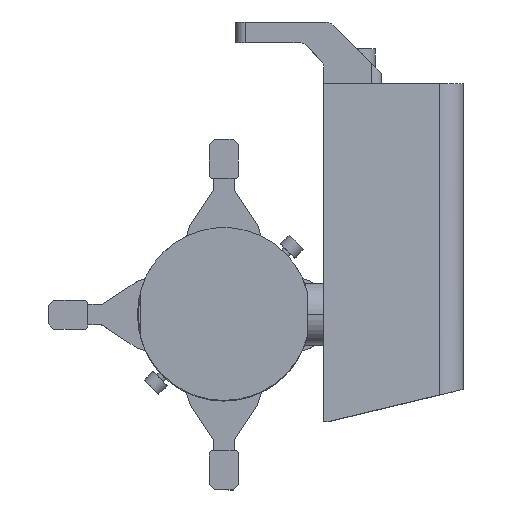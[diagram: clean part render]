
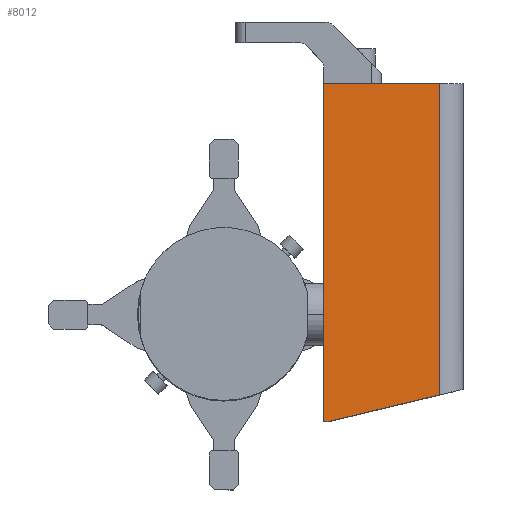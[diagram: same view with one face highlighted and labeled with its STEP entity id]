
A CAD part, top view. The second image highlights one B-rep face of the part: STEP entity #8012.
In plain terms, the highlighted planar face has unit normal (0.037, 0, 0.999).
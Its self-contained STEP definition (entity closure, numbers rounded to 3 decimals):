
#72 = CARTESIAN_POINT ( 'NONE',  ( 9.3, 112., 37.945 ) ) ;
#122 = VECTOR ( 'NONE', #8006, 1000. ) ;
#273 = ORIENTED_EDGE ( 'NONE', *, *, #3190, .F. ) ;
#546 = LINE ( 'NONE', #2147, #4829 ) ;
#746 = ORIENTED_EDGE ( 'NONE', *, *, #8245, .F. ) ;
#1152 = DIRECTION ( 'NONE',  ( -0.037, 0., -0.999 ) ) ;
#1860 = ORIENTED_EDGE ( 'NONE', *, *, #5948, .T. ) ;
#1941 = CARTESIAN_POINT ( 'NONE',  ( 9.3, -52., 37.945 ) ) ;
#1953 = CARTESIAN_POINT ( 'NONE',  ( 9.3, -101.8, 37.945 ) ) ;
#2147 = CARTESIAN_POINT ( 'NONE',  ( 9.3, 112., 37.945 ) ) ;
#2328 = VERTEX_POINT ( 'NONE', #7676 ) ;
#2598 = VECTOR ( 'NONE', #8045, 1000. ) ;
#2610 = DIRECTION ( 'NONE',  ( 0., -1., 0. ) ) ;
#3156 = VECTOR ( 'NONE', #5972, 1000. ) ;
#3190 = EDGE_CURVE ( 'NONE', #6931, #7893, #6284, .T. ) ;
#3264 = VECTOR ( 'NONE', #2610, 1000. ) ;
#3479 = CARTESIAN_POINT ( 'NONE',  ( 65.542, -101.8, 35.871 ) ) ;
#3837 = AXIS2_PLACEMENT_3D ( 'NONE', #1953, #1152, #7302 ) ;
#4207 = DIRECTION ( 'NONE',  ( -0.999, 0., 0.037 ) ) ;
#4346 = EDGE_CURVE ( 'NONE', #2328, #7067, #546, .T. ) ;
#4469 = CARTESIAN_POINT ( 'NONE',  ( 11.8, -52., 37.853 ) ) ;
#4829 = VECTOR ( 'NONE', #4207, 1000. ) ;
#5378 = CARTESIAN_POINT ( 'NONE',  ( 15.954, -51.008, 37.7 ) ) ;
#5753 = LINE ( 'NONE', #1941, #3264 ) ;
#5874 = FACE_OUTER_BOUND ( 'NONE', #5989, .T. ) ;
#5948 = EDGE_CURVE ( 'NONE', #7067, #8543, #5753, .T. ) ;
#5972 = DIRECTION ( 'NONE',  ( -0.999, 0., 0.037 ) ) ;
#5989 = EDGE_LOOP ( 'NONE', ( #273, #7135, #6707, #1860, #746 ) ) ;
#6142 = CARTESIAN_POINT ( 'NONE',  ( 65.542, -39.161, 35.871 ) ) ;
#6173 = LINE ( 'NONE', #7238, #3156 ) ;
#6284 = LINE ( 'NONE', #5378, #122 ) ;
#6521 = CARTESIAN_POINT ( 'NONE',  ( 9.3, -52., 37.945 ) ) ;
#6535 = PLANE ( 'NONE',  #3837 ) ;
#6707 = ORIENTED_EDGE ( 'NONE', *, *, #4346, .T. ) ;
#6911 = EDGE_CURVE ( 'NONE', #6931, #2328, #7925, .T. ) ;
#6931 = VERTEX_POINT ( 'NONE', #6142 ) ;
#7067 = VERTEX_POINT ( 'NONE', #72 ) ;
#7135 = ORIENTED_EDGE ( 'NONE', *, *, #6911, .T. ) ;
#7238 = CARTESIAN_POINT ( 'NONE',  ( 77.008, -52., 35.448 ) ) ;
#7302 = DIRECTION ( 'NONE',  ( -0.999, 0., 0.037 ) ) ;
#7676 = CARTESIAN_POINT ( 'NONE',  ( 65.542, 112., 35.871 ) ) ;
#7893 = VERTEX_POINT ( 'NONE', #4469 ) ;
#7925 = LINE ( 'NONE', #3479, #2598 ) ;
#8006 = DIRECTION ( 'NONE',  ( -0.972, -0.232, 0.036 ) ) ;
#8012 = ADVANCED_FACE ( 'NONE', ( #5874 ), #6535, .F. ) ;
#8045 = DIRECTION ( 'NONE',  ( 0., 1., 0. ) ) ;
#8245 = EDGE_CURVE ( 'NONE', #7893, #8543, #6173, .T. ) ;
#8543 = VERTEX_POINT ( 'NONE', #6521 ) ;
